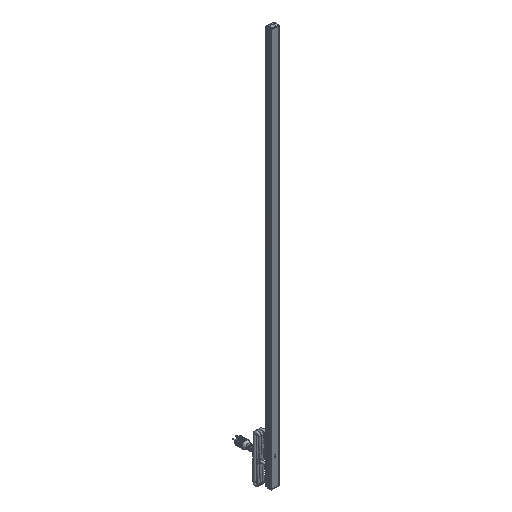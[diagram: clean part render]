
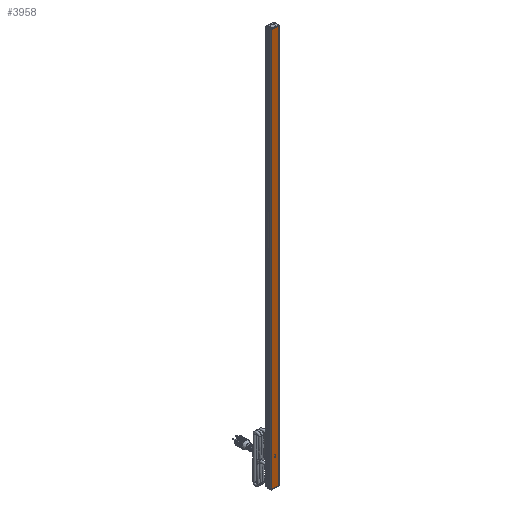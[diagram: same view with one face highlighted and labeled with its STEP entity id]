
A CAD part, isometric view. The second image highlights one B-rep face of the part: STEP entity #3958.
In plain terms, the highlighted planar face has unit normal (0, -1, 0).
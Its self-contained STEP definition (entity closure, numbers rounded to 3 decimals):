
#3680=CARTESIAN_POINT('',(18.421,0.,1955.8));
#3681=VERTEX_POINT('',#3680);
#3689=CARTESIAN_POINT('',(18.421,0.,0.0));
#3690=VERTEX_POINT('',#3689);
#3691=CARTESIAN_POINT('',(18.421,0.0,1955.8));
#3692=DIRECTION('',(0.0,0.0,-1.0));
#3693=VECTOR('',#3692,1955.8);
#3694=LINE('',#3691,#3693);
#3695=EDGE_CURVE('',#3681,#3690,#3694,.T.);
#3721=CARTESIAN_POINT('',(-18.421,0.,0.0));
#3722=VERTEX_POINT('',#3721);
#3723=CARTESIAN_POINT('',(-18.421,0.,0.0));
#3724=DIRECTION('',(1.0,0.0,0.0));
#3725=VECTOR('',#3724,36.842);
#3726=LINE('',#3723,#3725);
#3727=EDGE_CURVE('',#3722,#3690,#3726,.T.);
#3935=CARTESIAN_POINT('',(18.735,0.0,0.0));
#3936=DIRECTION('',(0.0,-1.0,0.0));
#3937=DIRECTION('',(0.0,0.0,-1.0));
#3938=AXIS2_PLACEMENT_3D('',#3935,#3936,#3937);
#3939=PLANE('',#3938);
#3940=ORIENTED_EDGE('',*,*,#3695,.F.);
#3941=CARTESIAN_POINT('',(-18.421,0.,1955.8));
#3942=VERTEX_POINT('',#3941);
#3943=CARTESIAN_POINT('',(18.421,0.,1955.8));
#3944=DIRECTION('',(-1.0,0.0,0.0));
#3945=VECTOR('',#3944,36.842);
#3946=LINE('',#3943,#3945);
#3947=EDGE_CURVE('',#3681,#3942,#3946,.T.);
#3948=ORIENTED_EDGE('',*,*,#3947,.T.);
#3949=CARTESIAN_POINT('',(-18.421,0.0,0.0));
#3950=DIRECTION('',(0.0,0.0,1.0));
#3951=VECTOR('',#3950,1955.8);
#3952=LINE('',#3949,#3951);
#3953=EDGE_CURVE('',#3722,#3942,#3952,.T.);
#3954=ORIENTED_EDGE('',*,*,#3953,.F.);
#3955=ORIENTED_EDGE('',*,*,#3727,.T.);
#3956=EDGE_LOOP('',(#3940,#3948,#3954,#3955));
#3957=FACE_OUTER_BOUND('',#3956,.T.);
#3958=ADVANCED_FACE('',(#3957),#3939,.T.);
